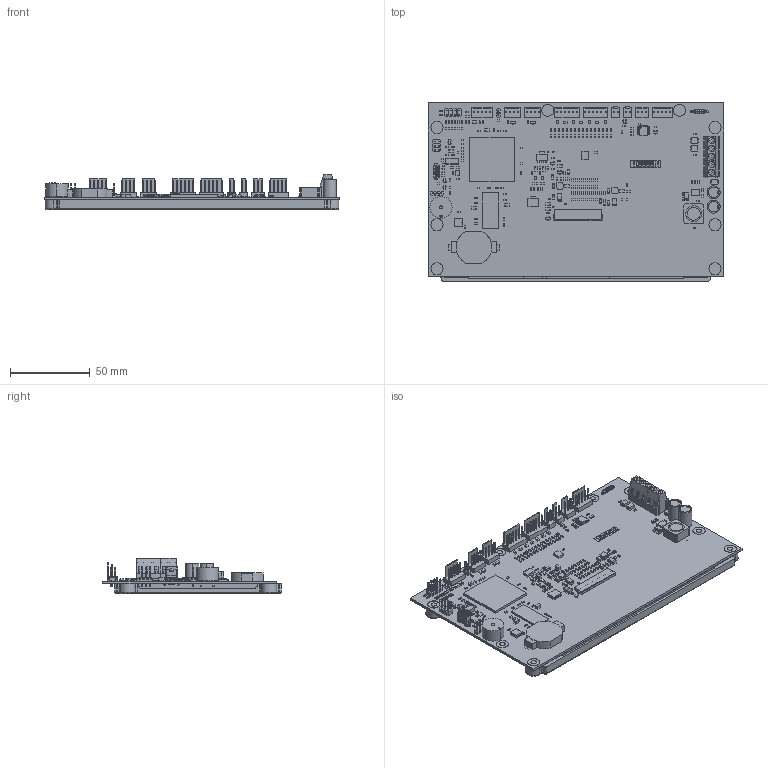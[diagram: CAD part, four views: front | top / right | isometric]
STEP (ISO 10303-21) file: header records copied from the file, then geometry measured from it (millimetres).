
FILE_DESCRIPTION (( 'STEP AP214' ), '1' );
FILE_NAME ('hmi700_with_bezel.stp', '2016-04-01T04:56:46', ( '' ), ( '' ), 'SwSTEP 2.0', 'SolidWorks 2015', '' );
FILE_SCHEMA (( 'AUTOMOTIVE_DESIGN' ));
Length unit declared in the file: millimetre
Products named in the file (3): Bezel^bezel; HMI700_1508; hmi700_with_bezel
Assembly tree (2 placements, depth 2):
  hmi700_with_bezel
    HMI700_1508
    Bezel^bezel
Bounding box: 185.3 x 111.8 x 22.11 mm (x, y, z)
Volume: 7381.3 mm3; surface area: 92935.8 mm2
Topology: 1 solids, 895 shells, 3577 faces, 11535 edges, 8820 vertices
Faces by surface type: plane 3257, cylinder 296, torus 14, bspline 6, sphere 4
Entity records: 160983 total; most frequent: CARTESIAN_POINT 24695, DIRECTION 19683, ORIENTED_EDGE 16219, EDGE_CURVE 11531, LINE 10295, VECTOR 10295, VERTEX_POINT 8820, AXIS2_PLACEMENT_3D 4694
